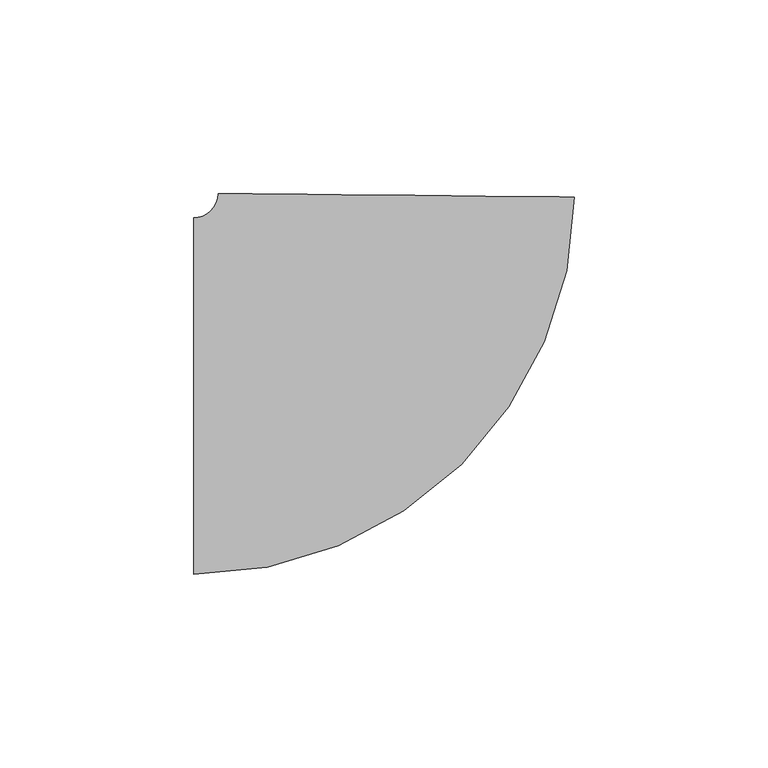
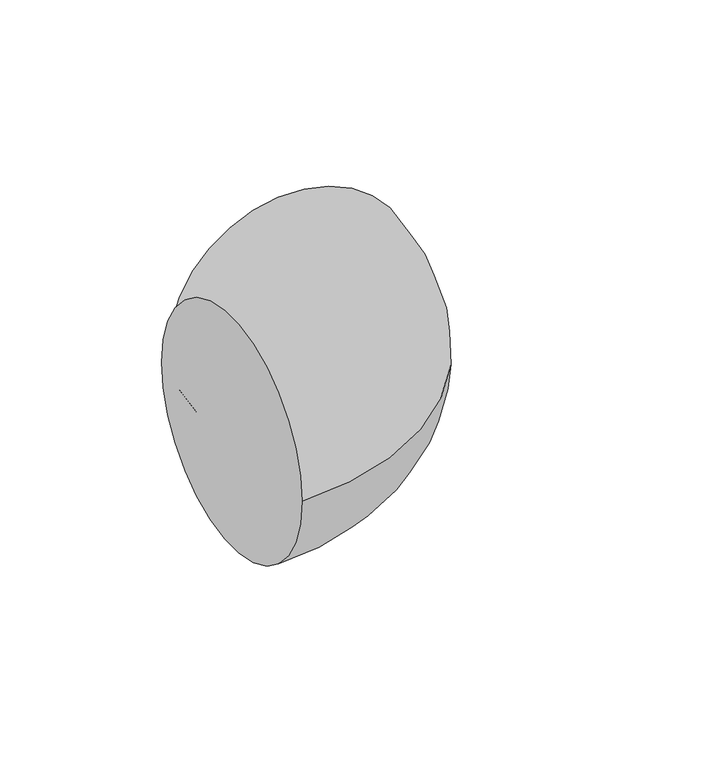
"""IFC4 building model written with IfcOpenShell, lengths in millimetres: pipe fitting geometry, M_Codo - Genérico : Estándar."""

from ifc_helpers import new_model, si_unit, point, frame, origin, place, context, project, spatial, circle_curve, ellipse_curve, trimmed, source, transform, mapped, element, save
from ifc_brep_helpers import plane_surface, revolved_surface, advanced_brep


def pipe_fitting_688cd524(model_context):
    return source(origin(), model_context, "Body", "AdvancedBrep", [
        advanced_brep(
        [(-51.8662443, -46.0375, 0.0), (-51.8662443, 46.0375, 0.0), (46.5538348, 51.4032992, 0.0), (-45.5165618, 52.3240032, 0.0)],
        [
            (0, 1, circle_curve(frame((-51.8662443, 0.0, 0.0), z_axis=(-1.0, 0.0, 0.0), x_axis=(0.0, 1.0, 0.0)), 46.0375)),
            (1, 0, circle_curve(frame((-51.8662443, 0.0, 0.0), z_axis=(-1.0, 0.0, 0.0), x_axis=(0.0, 1.0, 0.0)), 46.0375)),
            (2, 3, circle_curve(frame((0.5186365, 51.8636512, 0.0), z_axis=(0.009999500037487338, 0.9999500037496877, 0.0), x_axis=(-0.9999500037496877, 0.009999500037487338, 0.0)), 46.0375)),
            (3, 2, circle_curve(frame((0.5186365, 51.8636512, 0.0), z_axis=(0.009999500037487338, 0.9999500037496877, 0.0), x_axis=(-0.9999500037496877, 0.009999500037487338, 0.0)), 46.0375)),
            (3, 1, circle_curve(frame((-51.8662443, 52.3875, 0.0), z_axis=(0.0, 0.0, -1.0), x_axis=(0.0, -1.0, 0.0)), 6.35)),
            (0, 2, circle_curve(frame((-51.8662443, 52.3875, 0.0), z_axis=(0.0, 0.0, 1.0), x_axis=(0.0, -1.0, 0.0)), 98.425)),
        ],
        [
            plane_surface(frame((-51.8662443, 0.0, 0.0), z_axis=(-1.0, 0.0, 0.0), x_axis=(0.0, 0.0, 1.0))),
            plane_surface(frame((0.5186365, 51.8636512, 0.0), z_axis=(0.00999950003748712, 0.9999500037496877, 0.0), x_axis=(0.0, 0.0, 1.0))),
            revolved_surface(trimmed(ellipse_curve(frame((-51.8662443, 0.0, 0.0), z_axis=(-1.0, 0.0, 0.0), x_axis=(0.0, 1.0, 0.0)), 46.0375, 46.0375), [point((-51.8662443, -46.0375, 0.0))], [point((-51.8662443, 46.0375, 0.0))], True, "CARTESIAN"), (-51.8662443, 52.3875, 0.0), (0.0, 0.0, 1.0)),
            revolved_surface(trimmed(ellipse_curve(frame((-51.8662443, 0.0, 0.0), z_axis=(-1.0, 0.0, 0.0), x_axis=(0.0, 1.0, 0.0)), 46.0375, 46.0375), [point((-51.8662443, 46.0375, 0.0))], [point((-51.8662443, -46.0375, 0.0))], True, "CARTESIAN"), (-51.8662443, 52.3875, 0.0), (0.0, 0.0, 1.0)),
        ],
        [
            (0, [[1, 2]]),
            (1, [[3, 4]]),
            (2, [[5, -1, 6, -4]]),
            (3, [[-6, -2, -5, -3]]),
        ],
    ),
    ])


if __name__ == "__main__":
    model = new_model("IFC4")
    model_context = context("Model", 3, world=origin())
    ifc_project = project(units=[si_unit("LENGTHUNIT", "METRE", prefix="MILLI")], contexts=[model_context])
    site = spatial("IfcSite", under=ifc_project)
    building = spatial("IfcBuilding", under=site)
    placement = place(None, origin())
    pipe_fitting_shape = pipe_fitting_688cd524(model_context)
    element("IfcPipeFitting", 1, ObjectType="M_Codo - Genérico : Estándar", at=placement, inside=building, context=model_context, shape_type="MappedRepresentation", body=[
        mapped(pipe_fitting_shape, transform((0.0, 0.0, 0.0), x_axis=(1.0, 0.0, 0.0), y_axis=(0.0, 1.0, 0.0), z_axis=(0.0, 0.0, 1.0))),
    ])
    save(model, "model.ifc")
